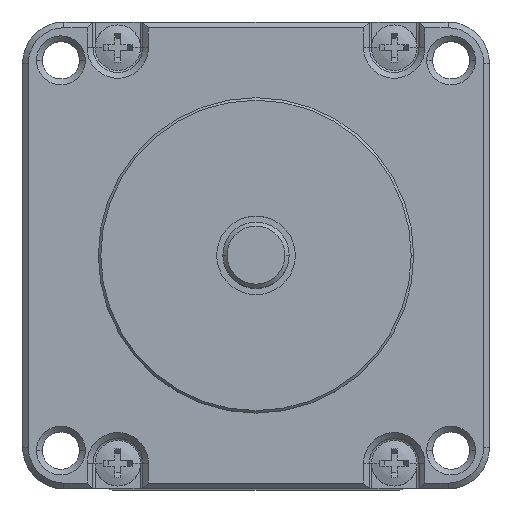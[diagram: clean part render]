
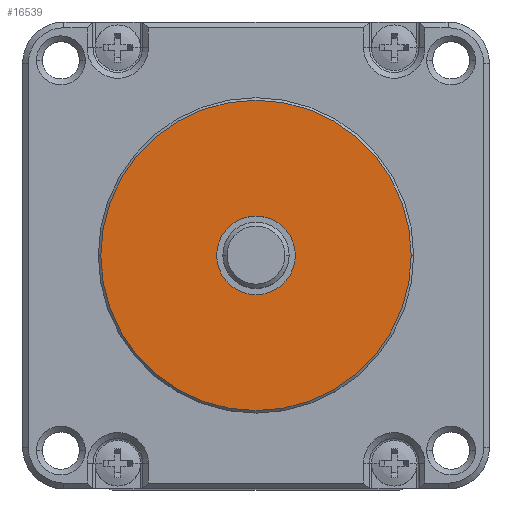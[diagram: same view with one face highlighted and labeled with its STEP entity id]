
A CAD part, top view. The second image highlights one B-rep face of the part: STEP entity #16539.
In plain terms, the highlighted planar face has unit normal (0, 0, 1).
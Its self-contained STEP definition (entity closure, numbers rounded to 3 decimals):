
#3837=CARTESIAN_POINT('',(0.,0.,-3.5));
#3838=DIRECTION('',(0.,0.,1.));
#3839=DIRECTION('',(-1.,0.,0.));
#3840=AXIS2_PLACEMENT_3D('',#3837,#3838,#3839);
#3842=CARTESIAN_POINT('',(0.,0.,-3.5));
#3843=DIRECTION('',(0.,0.,1.));
#3844=DIRECTION('',(1.,0.,0.));
#3845=AXIS2_PLACEMENT_3D('',#3842,#3843,#3844);
#3847=CARTESIAN_POINT('',(0.,0.,-3.5));
#3848=DIRECTION('',(0.,0.,1.));
#3849=DIRECTION('',(1.,0.,0.));
#3850=AXIS2_PLACEMENT_3D('',#3847,#3848,#3849);
#3852=CARTESIAN_POINT('',(0.,0.,-3.5));
#3853=DIRECTION('',(0.,0.,1.));
#3854=DIRECTION('',(-1.,0.,0.));
#3855=AXIS2_PLACEMENT_3D('',#3852,#3853,#3854);
#9237=CARTESIAN_POINT('',(-18.75,0.,-3.5));
#9238=CARTESIAN_POINT('',(18.75,0.,-3.5));
#9239=VERTEX_POINT('',#9237);
#9240=VERTEX_POINT('',#9238);
#9249=CARTESIAN_POINT('',(4.75,0.,-3.5));
#9250=CARTESIAN_POINT('',(-4.75,0.,-3.5));
#9251=VERTEX_POINT('',#9249);
#9252=VERTEX_POINT('',#9250);
#16523=CARTESIAN_POINT('',(0.,0.,-3.5));
#16524=DIRECTION('',(0.,0.,1.));
#16525=DIRECTION('',(1.,0.,0.));
#16526=AXIS2_PLACEMENT_3D('',#16523,#16524,#16525);
#16527=PLANE('',#16526);
#16529=ORIENTED_EDGE('',*,*,#16528,.F.);
#16530=ORIENTED_EDGE('',*,*,#16513,.F.);
#16531=EDGE_LOOP('',(#16529,#16530));
#16532=FACE_OUTER_BOUND('',#16531,.F.);
#16534=ORIENTED_EDGE('',*,*,#16533,.T.);
#16536=ORIENTED_EDGE('',*,*,#16535,.T.);
#16537=EDGE_LOOP('',(#16534,#16536));
#16538=FACE_BOUND('',#16537,.F.);
#3841=CIRCLE('',#3840,18.75);
#3846=CIRCLE('',#3845,18.75);
#3851=CIRCLE('',#3850,4.75);
#3856=CIRCLE('',#3855,4.75);
#16513=EDGE_CURVE('',#9240,#9239,#3846,.T.);
#16528=EDGE_CURVE('',#9239,#9240,#3841,.T.);
#16533=EDGE_CURVE('',#9251,#9252,#3851,.T.);
#16535=EDGE_CURVE('',#9252,#9251,#3856,.T.);
#16539=ADVANCED_FACE('',(#16532,#16538),#16527,.T.);
